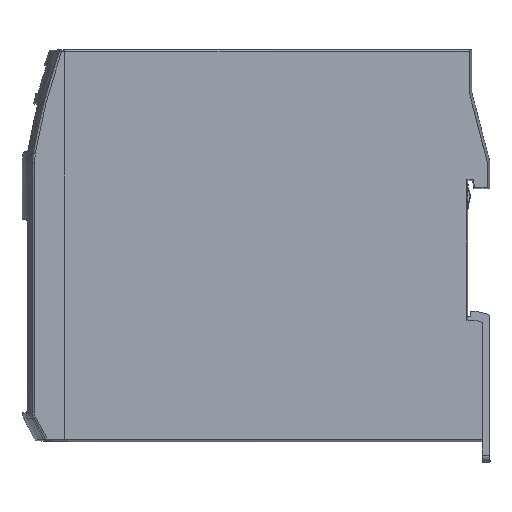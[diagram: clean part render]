
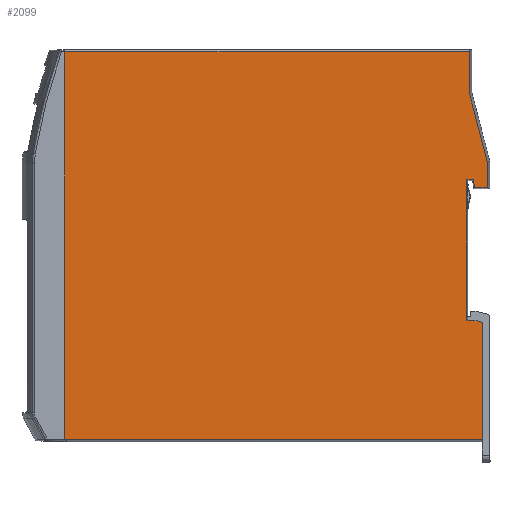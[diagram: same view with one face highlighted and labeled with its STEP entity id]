
A CAD part, top view. The second image highlights one B-rep face of the part: STEP entity #2099.
In plain terms, the highlighted planar face has unit normal (0, 0, 1).
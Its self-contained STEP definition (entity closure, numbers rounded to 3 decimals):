
#40 = DIRECTION ( 'NONE',  ( 0., 1., 0. ) ) ;
#180 = ORIENTED_EDGE ( 'NONE', *, *, #6052, .T. ) ;
#188 = CARTESIAN_POINT ( 'NONE',  ( 125.3, 40.812, 70.666 ) ) ;
#199 = CARTESIAN_POINT ( 'NONE',  ( 19.812, 11.206, 70.666 ) ) ;
#250 = DIRECTION ( 'NONE',  ( 1., 0., 0. ) ) ;
#278 = EDGE_CURVE ( 'NONE', #458, #6579, #8375, .T. ) ;
#309 = CARTESIAN_POINT ( 'NONE',  ( 121.983, 98.797, 70.666 ) ) ;
#458 = VERTEX_POINT ( 'NONE', #11491 ) ;
#577 = EDGE_CURVE ( 'NONE', #7008, #6427, #3850, .T. ) ;
#731 = CARTESIAN_POINT ( 'NONE',  ( 123.33, 74.854, 70.666 ) ) ;
#912 = CARTESIAN_POINT ( 'NONE',  ( 126.508, 81.51, 70.666 ) ) ;
#1027 = ORIENTED_EDGE ( 'NONE', *, *, #9029, .T. ) ;
#1152 = CARTESIAN_POINT ( 'NONE',  ( 19.793, 109.199, 70.666 ) ) ;
#1198 = CARTESIAN_POINT ( 'NONE',  ( 0., 76.878, 70.666 ) ) ;
#1354 = EDGE_CURVE ( 'NONE', #10998, #8146, #3318, .T. ) ;
#1429 = VECTOR ( 'NONE', #8835, 1000. ) ;
#1445 = VECTOR ( 'NONE', #7581, 1000. ) ;
#1502 = B_SPLINE_CURVE_WITH_KNOTS ( 'NONE', 3,
 ( #10446, #6880, #3203, #3117 ),
 .UNSPECIFIED., .F., .F.,
 ( 4, 4 ),
 ( 0., 1. ),
 .UNSPECIFIED. ) ;
#1539 = FACE_OUTER_BOUND ( 'NONE', #6187, .T. ) ;
#1564 = VECTOR ( 'NONE', #5556, 1000. ) ;
#1582 = LINE ( 'NONE', #9128, #11098 ) ;
#1860 = CARTESIAN_POINT ( 'NONE',  ( 122.973, 76.878, 70.666 ) ) ;
#1928 = CARTESIAN_POINT ( 'NONE',  ( 19.796, 11.218, 70.666 ) ) ;
#2083 = CARTESIAN_POINT ( 'NONE',  ( 125.3, 109.693, 70.666 ) ) ;
#2099 = ADVANCED_FACE ( 'NONE', ( #1539 ), #8474, .T. ) ;
#2151 = DIRECTION ( 'NONE',  ( 0.174, -0.985, 0. ) ) ;
#2469 = ORIENTED_EDGE ( 'NONE', *, *, #8866, .T. ) ;
#2561 = VECTOR ( 'NONE', #40, 1000. ) ;
#2636 = DIRECTION ( 'NONE',  ( -0.003, 1., 0. ) ) ;
#2748 = CARTESIAN_POINT ( 'NONE',  ( 19.796, 11.23, 70.666 ) ) ;
#2755 = CARTESIAN_POINT ( 'NONE',  ( -0.544, 41.318, 70.666 ) ) ;
#2757 = AXIS2_PLACEMENT_3D ( 'NONE', #7526, #5703, #250 ) ;
#2844 = LINE ( 'NONE', #2755, #1564 ) ;
#3029 = EDGE_CURVE ( 'NONE', #6579, #3463, #9838, .T. ) ;
#3095 = LINE ( 'NONE', #8345, #6205 ) ;
#3117 = CARTESIAN_POINT ( 'NONE',  ( 19.796, 11.23, 70.666 ) ) ;
#3203 = CARTESIAN_POINT ( 'NONE',  ( 19.795, 43.886, 70.666 ) ) ;
#3318 = B_SPLINE_CURVE_WITH_KNOTS ( 'NONE', 3,
 ( #8368, #4801, #6593, #1152 ),
 .UNSPECIFIED., .F., .F.,
 ( 4, 4 ),
 ( 0., 1. ),
 .UNSPECIFIED. ) ;
#3463 = VERTEX_POINT ( 'NONE', #3614 ) ;
#3597 = EDGE_CURVE ( 'NONE', #7003, #11166, #3878, .T. ) ;
#3614 = CARTESIAN_POINT ( 'NONE',  ( 125.3, 40.812, 70.666 ) ) ;
#3679 = B_SPLINE_CURVE_WITH_KNOTS ( 'NONE', 3,
 ( #5647, #199, #1928, #6565 ),
 .UNSPECIFIED., .F., .F.,
 ( 4, 4 ),
 ( 0., 1. ),
 .UNSPECIFIED. ) ;
#3699 = LINE ( 'NONE', #8251, #2561 ) ;
#3711 = DIRECTION ( 'NONE',  ( -0.966, 0.259, 0. ) ) ;
#3803 = CARTESIAN_POINT ( 'NONE',  ( 19.793, 109.199, 70.666 ) ) ;
#3818 = VERTEX_POINT ( 'NONE', #9398 ) ;
#3827 = ORIENTED_EDGE ( 'NONE', *, *, #11553, .T. ) ;
#3850 = LINE ( 'NONE', #912, #5961 ) ;
#3878 = LINE ( 'NONE', #4770, #7420 ) ;
#4018 = CARTESIAN_POINT ( 'NONE',  ( 121.404, 41.318, 70.666 ) ) ;
#4533 = CARTESIAN_POINT ( 'NONE',  ( 123.412, 41.318, 70.666 ) ) ;
#4636 = EDGE_CURVE ( 'NONE', #8146, #5014, #1502, .T. ) ;
#4693 = DIRECTION ( 'NONE',  ( -0.001, 1., 0. ) ) ;
#4770 = CARTESIAN_POINT ( 'NONE',  ( 122.973, 76.878, 70.666 ) ) ;
#4801 = CARTESIAN_POINT ( 'NONE',  ( 87.902, 109.195, 70.666 ) ) ;
#5014 = VERTEX_POINT ( 'NONE', #2748 ) ;
#5526 = ORIENTED_EDGE ( 'NONE', *, *, #577, .T. ) ;
#5556 = DIRECTION ( 'NONE',  ( -1., 0., 0. ) ) ;
#5647 = CARTESIAN_POINT ( 'NONE',  ( 19.845, 11.193, 70.666 ) ) ;
#5703 = DIRECTION ( 'NONE',  ( 0., 0., 1. ) ) ;
#5961 = VECTOR ( 'NONE', #10881, 1000. ) ;
#6052 = EDGE_CURVE ( 'NONE', #3463, #10692, #8248, .T. ) ;
#6146 = EDGE_CURVE ( 'NONE', #9367, #6992, #1582, .T. ) ;
#6187 = EDGE_LOOP ( 'NONE', ( #9130, #180, #2469, #10557, #6301, #10342, #3827, #1027, #5526, #6962, #6797, #6467, #10318, #10670 ) ) ;
#6205 = VECTOR ( 'NONE', #8310, 1000. ) ;
#6274 = LINE ( 'NONE', #1198, #1445 ) ;
#6301 = ORIENTED_EDGE ( 'NONE', *, *, #6302, .F. ) ;
#6302 = EDGE_CURVE ( 'NONE', #7003, #6992, #6274, .T. ) ;
#6427 = VERTEX_POINT ( 'NONE', #309 ) ;
#6467 = ORIENTED_EDGE ( 'NONE', *, *, #4636, .T. ) ;
#6565 = CARTESIAN_POINT ( 'NONE',  ( 19.796, 11.23, 70.666 ) ) ;
#6579 = VERTEX_POINT ( 'NONE', #8528 ) ;
#6593 = CARTESIAN_POINT ( 'NONE',  ( 53.848, 109.197, 70.666 ) ) ;
#6797 = ORIENTED_EDGE ( 'NONE', *, *, #1354, .T. ) ;
#6880 = CARTESIAN_POINT ( 'NONE',  ( 19.794, 76.543, 70.666 ) ) ;
#6962 = ORIENTED_EDGE ( 'NONE', *, *, #8695, .T. ) ;
#6992 = VERTEX_POINT ( 'NONE', #10988 ) ;
#7003 = VERTEX_POINT ( 'NONE', #1860 ) ;
#7008 = VERTEX_POINT ( 'NONE', #9989 ) ;
#7420 = VECTOR ( 'NONE', #2151, 1000. ) ;
#7436 = VECTOR ( 'NONE', #7600, 1000. ) ;
#7526 = CARTESIAN_POINT ( 'NONE',  ( -0.544, 109.693, 70.666 ) ) ;
#7581 = DIRECTION ( 'NONE',  ( -1., 0., 0. ) ) ;
#7600 = DIRECTION ( 'NONE',  ( 0., 1., 0. ) ) ;
#7933 = CARTESIAN_POINT ( 'NONE',  ( -0.544, 11.193, 70.666 ) ) ;
#7983 = CARTESIAN_POINT ( 'NONE',  ( 121.983, 98.797, 70.666 ) ) ;
#8146 = VERTEX_POINT ( 'NONE', #3803 ) ;
#8248 = LINE ( 'NONE', #188, #10663 ) ;
#8251 = CARTESIAN_POINT ( 'NONE',  ( 126.508, 109.693, 70.666 ) ) ;
#8310 = DIRECTION ( 'NONE',  ( 1., 0.001, 0. ) ) ;
#8345 = CARTESIAN_POINT ( 'NONE',  ( 123.33, 74.854, 70.666 ) ) ;
#8368 = CARTESIAN_POINT ( 'NONE',  ( 121.957, 109.193, 70.666 ) ) ;
#8375 = LINE ( 'NONE', #7933, #1429 ) ;
#8474 = PLANE ( 'NONE',  #2757 ) ;
#8528 = CARTESIAN_POINT ( 'NONE',  ( 125.3, 11.193, 70.666 ) ) ;
#8695 = EDGE_CURVE ( 'NONE', #6427, #10998, #9643, .T. ) ;
#8835 = DIRECTION ( 'NONE',  ( 1., 0., 0. ) ) ;
#8866 = EDGE_CURVE ( 'NONE', #10692, #9367, #2844, .T. ) ;
#9029 = EDGE_CURVE ( 'NONE', #3818, #7008, #3699, .T. ) ;
#9128 = CARTESIAN_POINT ( 'NONE',  ( 121.404, 41.318, 70.666 ) ) ;
#9130 = ORIENTED_EDGE ( 'NONE', *, *, #3029, .T. ) ;
#9367 = VERTEX_POINT ( 'NONE', #4018 ) ;
#9398 = CARTESIAN_POINT ( 'NONE',  ( 126.508, 74.857, 70.666 ) ) ;
#9643 = LINE ( 'NONE', #7983, #11506 ) ;
#9838 = LINE ( 'NONE', #2083, #7436 ) ;
#9989 = CARTESIAN_POINT ( 'NONE',  ( 126.508, 81.51, 70.666 ) ) ;
#10258 = CARTESIAN_POINT ( 'NONE',  ( 121.957, 109.193, 70.666 ) ) ;
#10318 = ORIENTED_EDGE ( 'NONE', *, *, #11704, .F. ) ;
#10342 = ORIENTED_EDGE ( 'NONE', *, *, #3597, .T. ) ;
#10446 = CARTESIAN_POINT ( 'NONE',  ( 19.793, 109.199, 70.666 ) ) ;
#10557 = ORIENTED_EDGE ( 'NONE', *, *, #6146, .T. ) ;
#10663 = VECTOR ( 'NONE', #3711, 1000. ) ;
#10670 = ORIENTED_EDGE ( 'NONE', *, *, #278, .T. ) ;
#10692 = VERTEX_POINT ( 'NONE', #4533 ) ;
#10881 = DIRECTION ( 'NONE',  ( -0.253, 0.967, 0. ) ) ;
#10988 = CARTESIAN_POINT ( 'NONE',  ( 121.386, 76.878, 70.666 ) ) ;
#10998 = VERTEX_POINT ( 'NONE', #10258 ) ;
#11098 = VECTOR ( 'NONE', #4693, 1000. ) ;
#11166 = VERTEX_POINT ( 'NONE', #731 ) ;
#11491 = CARTESIAN_POINT ( 'NONE',  ( 19.845, 11.193, 70.666 ) ) ;
#11506 = VECTOR ( 'NONE', #2636, 1000. ) ;
#11553 = EDGE_CURVE ( 'NONE', #11166, #3818, #3095, .T. ) ;
#11704 = EDGE_CURVE ( 'NONE', #458, #5014, #3679, .T. ) ;
